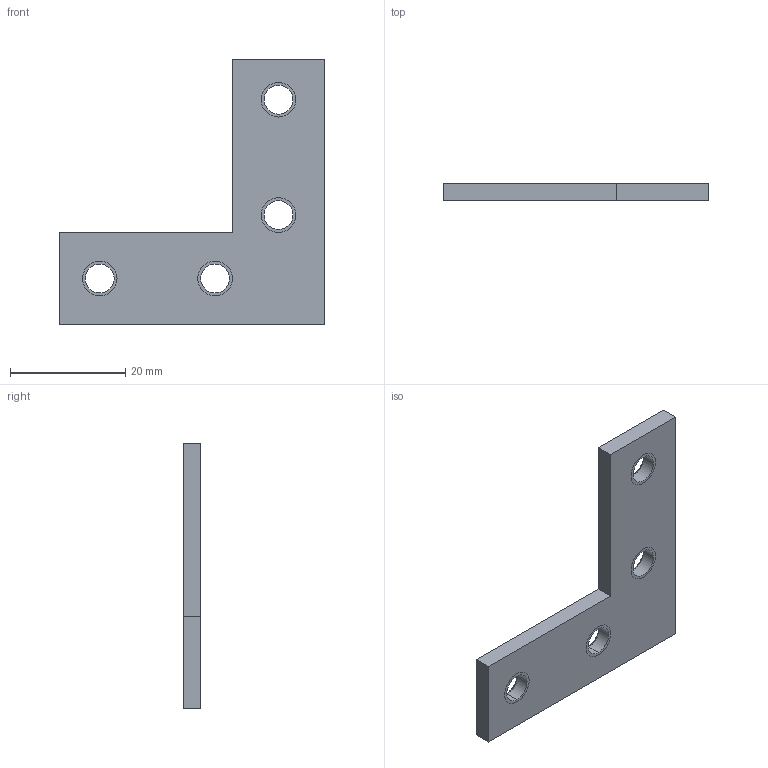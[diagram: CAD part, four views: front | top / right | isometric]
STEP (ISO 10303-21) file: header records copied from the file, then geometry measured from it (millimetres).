
FILE_DESCRIPTION((''),'2;1');
FILE_NAME('GIE9030','2002-12-27T',('Lipro doo'),('Lipro d.o.o.'),'PRO/ENGINEER BY PARAMETRIC TECHNOLOGY CORPORATION, 2001150','PRO/ENGINEER BY PARAMETRIC TECHNOLOGY CORPORATION, 2001150','');
FILE_SCHEMA(('CONFIG_CONTROL_DESIGN'));
Length unit declared in the file: millimetre
Products named in the file (1): GIE9030
Bounding box: 46 x 3 x 46 mm (x, y, z)
Volume: 3399.1 mm3; surface area: 3211.2 mm2
Topology: 1 solids, 5 shells, 32 faces, 82 edges, 52 vertices
Faces by surface type: cylinder 16, plane 8, cone 8
Entity records: 1033 total; most frequent: DIRECTION 188, CARTESIAN_POINT 167, ORIENTED_EDGE 148, EDGE_CURVE 82, AXIS2_PLACEMENT_3D 73, VERTEX_POINT 52, VECTOR 42, LINE 42
